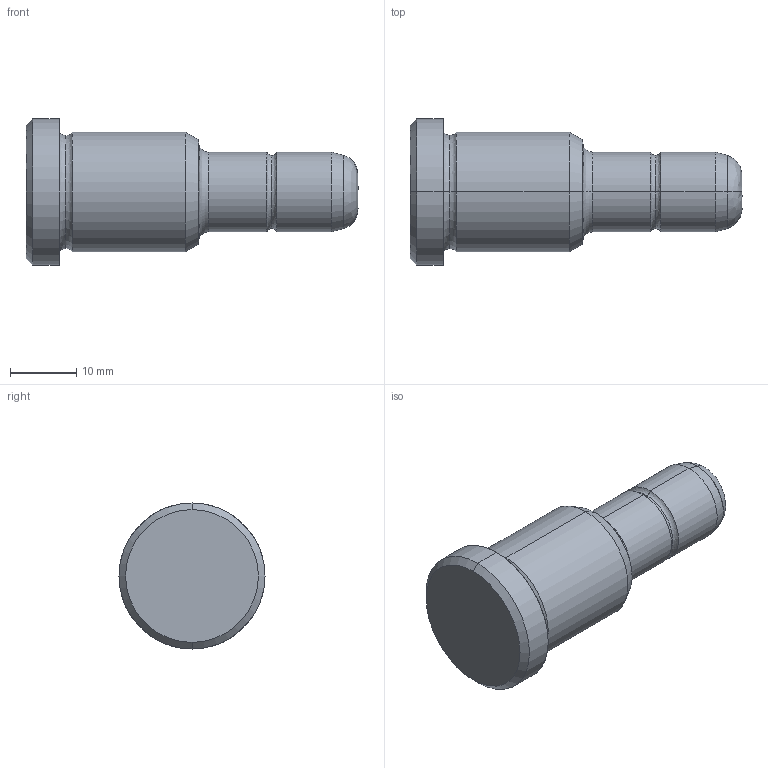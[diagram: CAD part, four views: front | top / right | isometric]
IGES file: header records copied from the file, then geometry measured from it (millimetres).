
Start section: START RECORD GO HERE.
Global section: file name: 351-12X26X50.igs; native system: DASSAULT SYSTEMES CATIA V5 R20 - www.3ds.com; preprocessor: CATIA Version 5 Release 20 ; author: Utente; organization: NB04-ASUS; date: 20210817.141223; units: millimetre
Bounding box: 50 x 22 x 22 mm (x, y, z)
Surface area: 3038 mm2 (no closed solid volume)
Topology: 0 solids, 0 shells, 30 faces, 172 edges, 172 vertices
Faces by surface type: revolution 24, plane 4, bspline 2
